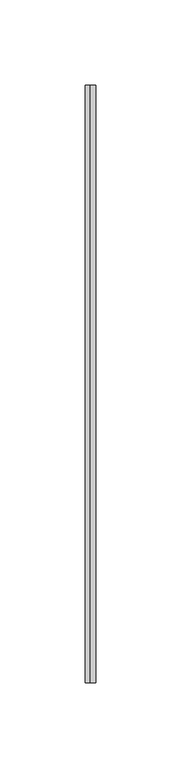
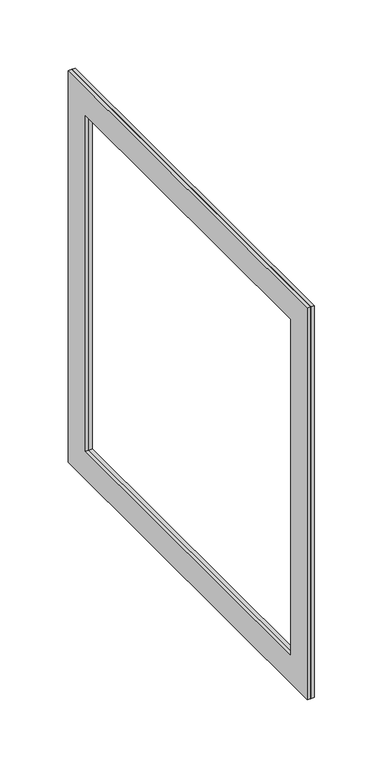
"""IFC4 building model written with IfcOpenShell, lengths in millimetres: duct fitting geometry, BL_ФланецВоздуховдов-Двойной_Прямоугольный_БезКоннекторов : BL_ФланецВоздуховдов-Двойной_Прямоугольный_БезКоннекторов."""

from ifc_helpers import new_model, si_unit, frame, origin, place, context, project, spatial, polyline, outline, extrude, source, transform, mapped, element, save


def duct_fitting_0dfde639(model_context):
    return source(origin(), model_context, "Body", "SweptSolid", [
        extrude(outline(polyline([(220.6742229, 175.0), (220.6742229, -175.0), (-129.3257771, -175.0), (-129.3257771, 175.0), (220.6742229, 175.0)]), holes=[polyline([(195.6742229, 150.0), (-104.3257771, 150.0), (-104.3257771, -150.0), (195.6742229, -150.0), (195.6742229, 150.0)])]), frame((0.0, 0.0, 0.0), z_axis=(1.0, 0.0, 0.0), x_axis=(0.0, 1.0, 0.0)), (0.0, 0.0, 1.0), 3.0),
        extrude(outline(polyline([(220.6742229, 175.0), (220.6742229, -175.0), (-129.3257771, -175.0), (-129.3257771, 175.0), (220.6742229, 175.0)]), holes=[polyline([(-104.3257771, 150.0), (-104.3257771, -150.0), (195.6742229, -150.0), (195.6742229, 150.0), (-104.3257771, 150.0)])]), frame((-3.0, 0.0, 0.0), z_axis=(1.0, 0.0, 0.0), x_axis=(0.0, 1.0, 0.0)), (0.0, 0.0, 1.0), 3.0),
    ])


if __name__ == "__main__":
    model = new_model("IFC4")
    model_context = context("Model", 3, world=origin())
    ifc_project = project(units=[si_unit("LENGTHUNIT", "METRE", prefix="MILLI")], contexts=[model_context])
    site = spatial("IfcSite", under=ifc_project)
    building = spatial("IfcBuilding", under=site)
    placement = place(None, origin())
    duct_fitting_shape = duct_fitting_0dfde639(model_context)
    element("IfcDuctFitting", 1, ObjectType="BL_ФланецВоздуховдов-Двойной_Прямоугольный_БезКоннекторов : BL_ФланецВоздуховдов-Двойной_Прямоугольный_БезКоннекторов", at=placement, inside=building, context=model_context, shape_type="MappedRepresentation", body=[
        mapped(duct_fitting_shape, transform((0.0, 0.0, 0.0), x_axis=(1.0, 0.0, 0.0), y_axis=(0.0, 1.0, 0.0), z_axis=(0.0, 0.0, 1.0))),
    ])
    save(model, "model.ifc")
